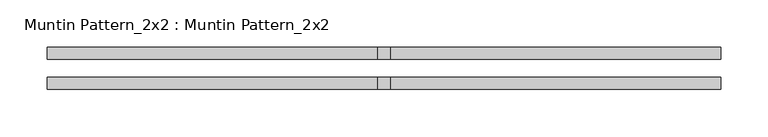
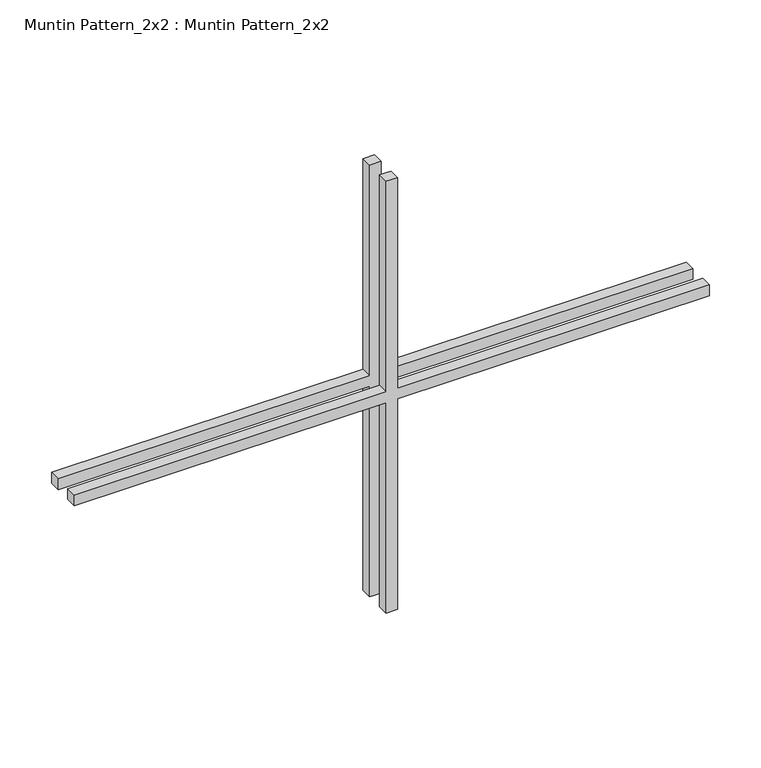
"""IFC4 building model written with IfcOpenShell, lengths in millimetres: proxy geometry, Muntin Pattern_2x2 : Muntin Pattern_2x2."""

from ifc_helpers import new_model, si_unit, frame, origin, place, context, project, spatial, polyline, outline, extrude, source, transform, mapped, element, save


def muntin_pattern_2x2_muntin_pattern_2x2_07ca9e42(model_context):
    return source(origin(), model_context, "Body", "SweptSolid", [
        extrude(outline(polyline([(261.9375, -6.35), (261.9375, -355.6), (249.2375, -355.6), (249.2375, -6.35), (0.0, -6.35), (0.0, 6.35), (249.2375, 6.35), (249.2375, 355.6), (261.9375, 355.6), (261.9375, 6.35), (511.175, 6.35), (511.175, -6.35), (261.9375, -6.35)])), frame((0.0, 9.525, 0.0), z_axis=(0.0, 1.0, 0.0), x_axis=(0.0, 0.0, 1.0)), (0.0, 0.0, 1.0), 12.7),
        extrude(outline(polyline([(261.9375, -6.35), (261.9375, -355.6), (249.2375, -355.6), (249.2375, -6.35), (0.0, -6.35), (0.0, 6.35), (249.2375, 6.35), (249.2375, 355.6), (261.9375, 355.6), (261.9375, 6.35), (511.175, 6.35), (511.175, -6.35), (261.9375, -6.35)])), frame((0.0, -22.225, 0.0), z_axis=(0.0, 1.0, 0.0), x_axis=(0.0, 0.0, 1.0)), (0.0, 0.0, 1.0), 12.7),
    ])


if __name__ == "__main__":
    model = new_model("IFC4")
    model_context = context("Model", 3, world=origin())
    ifc_project = project(units=[si_unit("LENGTHUNIT", "METRE", prefix="MILLI")], contexts=[model_context])
    site = spatial("IfcSite", under=ifc_project)
    building = spatial("IfcBuilding", under=site)
    placement = place(None, origin())
    muntin_pattern_2x2_muntin_pattern_2x2_shape = muntin_pattern_2x2_muntin_pattern_2x2_07ca9e42(model_context)
    element("IfcBuildingElementProxy", 1, Name="Muntin Pattern_2x2 : Muntin Pattern_2x2", ObjectType="Muntin Pattern_2x2 : Muntin Pattern_2x2", at=placement, inside=building, context=model_context, shape_type="MappedRepresentation", body=[
        mapped(muntin_pattern_2x2_muntin_pattern_2x2_shape, transform((0.0, 0.0, 0.0), x_axis=(1.0, 0.0, 0.0), y_axis=(0.0, 1.0, 0.0), z_axis=(0.0, 0.0, 1.0))),
    ])
    save(model, "model.ifc")
